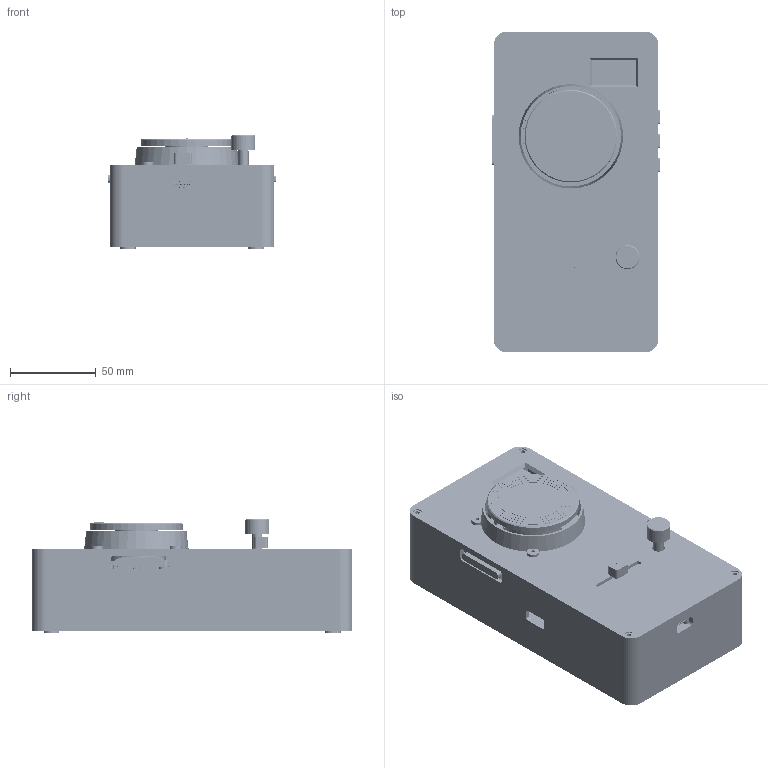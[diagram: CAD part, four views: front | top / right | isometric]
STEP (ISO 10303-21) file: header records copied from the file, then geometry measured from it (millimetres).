
FILE_DESCRIPTION(('Open CASCADE Model'),'2;1');
FILE_NAME('Open CASCADE Shape Model','2026-11-21T20:31:39',('Author'),( 'Open CASCADE'),'Open CASCADE STEP processor 7.9','Open CASCADE 7.9' ,'Unknown');
FILE_SCHEMA(('AUTOMOTIVE_DESIGN { 1 0 10303 214 1 1 1 1 }'));
Length unit declared in the file: millimetre
Products named in the file (207): DSH-5 Rev D assembled deck; Side chassis; Aluminum control plate; Rear lid with recessed logo; Platter surround; Rear logo inlay; RECORD button plunger; MIX button plunger; PLAY button plunger; Speed seesaw coupling cap; Rear rubber foot 1; Rear rubber foot 2; Rear rubber foot 3; Rear rubber foot 4; PCB and populated controls; PCB part 1; PCB part 2; PCB part 3; PCB part 4; PCB part 5; PCB part 6; PCB part 7; PCB part 8; PCB part 9; PCB part 10; PCB part 11; PCB part 12; PCB part 13; PCB part 14; PCB part 15; PCB part 16; PCB part 17; PCB part 18; PCB part 19; PCB part 20; PCB part 21; PCB part 22; PCB part 23; PCB part 24; PCB part 25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
Assembly tree (206 placements, depth 3):
  DSH-5 Rev D assembled deck
    Side chassis
    Aluminum control plate
    Rear lid with recessed logo
    Platter surround
    Rear logo inlay
    RECORD button plunger
    MIX button plunger
    PLAY button plunger
    Speed seesaw coupling cap
    Rear rubber foot 1
    Rear rubber foot 2
    Rear rubber foot 3
    Rear rubber foot 4
    PCB and populated controls
      PCB part 1
      PCB part 2
      PCB part 3
      PCB part 4
      PCB part 5
      PCB part 6
      PCB part 7
      PCB part 8
      PCB part 9
      PCB part 10
      PCB part 11
      PCB part 12
      PCB part 13
      PCB part 14
      PCB part 15
      PCB part 16
      PCB part 17
      PCB part 18
      PCB part 19
      PCB part 20
      PCB part 21
      PCB part 22
      PCB part 23
      PCB part 24
      PCB part 25
      PCB part 26
      PCB part 27
      PCB part 28
      PCB part 29
      PCB part 30
      PCB part 31
      PCB part 32
      PCB part 33
      PCB part 34
      PCB part 35
      PCB part 36
      PCB part 37
      PCB part 38
      PCB part 39
      PCB part 40
      PCB part 41
      PCB part 42
      PCB part 43
      PCB part 44
      PCB part 45
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Bounding box: 97.9 x 187.1 x 66.44 mm (x, y, z)
Volume: 288006.4 mm3; surface area: 231733.2 mm2
Topology: 208 solids, 209 shells, 10068 faces, 26272 edges, 17099 vertices
Faces by surface type: plane 7320, cylinder 2124, bspline 539, torus 33, sphere 28, cone 20, revolution 4
Full cylindrical faces by diameter (mm): 0.2 x8, 0.25 x1, 0.65 x12, 0.7 x2, 0.75 x5, 0.8 x27, 0.9 x20, 0.95 x9, 0.99 x10, 1 x82, 1.016 x9, 1.02 x5, 1.2 x13, 1.3 x10, 1.65 x2, 1.7 x18, 2 x5, 2.05 x8, 2.08 x7, 2.15 x7, 2.184 x8, 2.2 x2, 2.5 x5, 2.55 x4, 2.65 x4, 2.7 x24, 3.14 x5, 3.2 x4, 3.25 x3, 3.5 x5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
Entity records: 679258 total; most frequent: CARTESIAN_POINT 148705, DIRECTION 96735, LINE 66048, VECTOR 66048, ORIENTED_EDGE 52503, PCURVE 52488, DEFINITIONAL_REPRESENTATION 52488, EDGE_CURVE 26244
